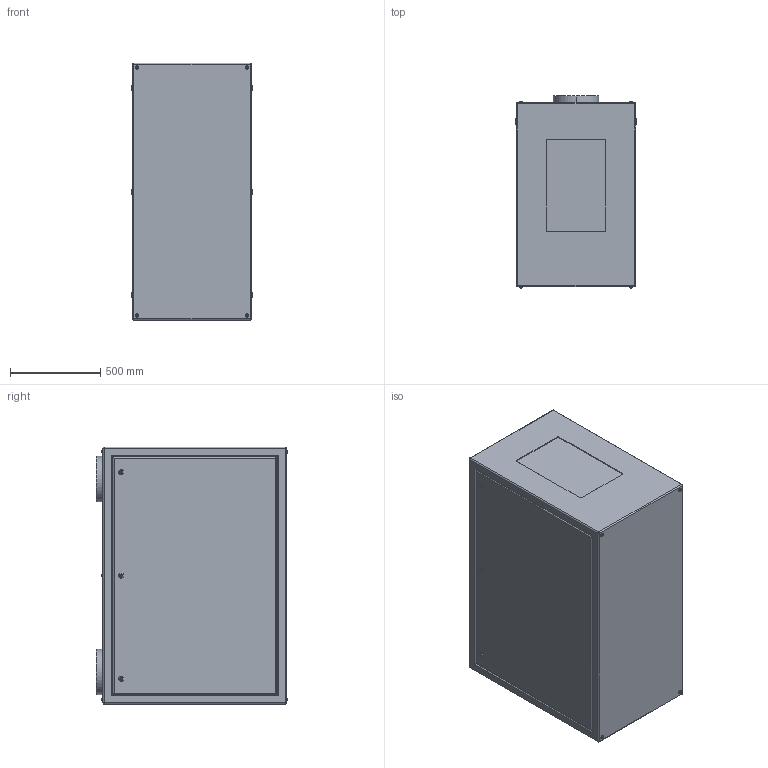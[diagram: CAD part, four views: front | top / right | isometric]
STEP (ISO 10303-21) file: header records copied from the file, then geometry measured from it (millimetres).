
FILE_DESCRIPTION (( 'STEP AP214' ), '1' );
FILE_NAME ('Tacit 56.322.P R08.STEP', '2022-09-11T22:40:12', ( '' ), ( '' ), 'SwSTEP 2.0', 'SolidWorks 2020', '' );
FILE_SCHEMA (( 'AUTOMOTIVE_DESIGN' ));
Length unit declared in the file: inch
Products named in the file (1): Tacit 56.322.P R08
Bounding box: 673.1 x 1061.35 x 1427.48 mm (x, y, z)
Volume: 952608996.5 mm3; surface area: 6523928.4 mm2
Topology: 1 solids, 7 shells, 401 faces, 892 edges, 560 vertices
Faces by surface type: plane 177, cylinder 168, torus 48, sphere 8
Entity records: 15011 total; most frequent: CARTESIAN_POINT 2382, DIRECTION 1972, ORIENTED_EDGE 1768, EDGE_CURVE 884, AXIS2_PLACEMENT_3D 782, VERTEX_POINT 560, EDGE_LOOP 464, LINE 408
